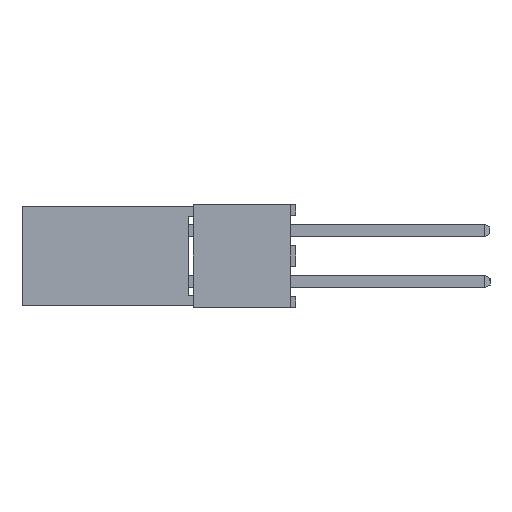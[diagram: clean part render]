
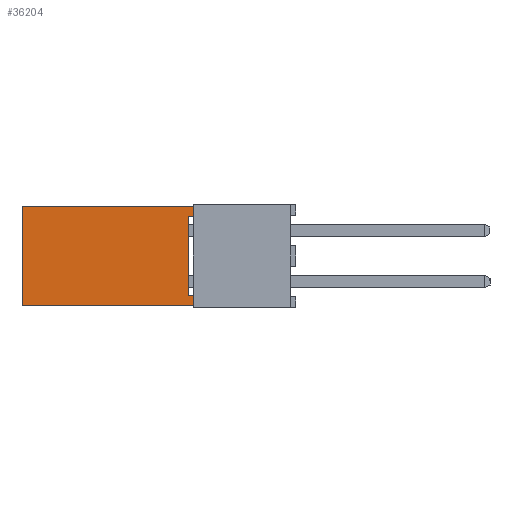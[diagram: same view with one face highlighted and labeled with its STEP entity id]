
A CAD part, left-side view. The second image highlights one B-rep face of the part: STEP entity #36204.
In plain terms, the highlighted planar face has unit normal (-1, 0, 0).
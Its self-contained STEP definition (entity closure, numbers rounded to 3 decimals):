
#327 = LINE ( 'NONE', #23468, #23651 ) ;
#1150 = DIRECTION ( 'NONE',  ( 0., 0., -1. ) ) ;
#2146 = VERTEX_POINT ( 'NONE', #10787 ) ;
#2588 = AXIS2_PLACEMENT_3D ( 'NONE', #33188, #25144, #48817 ) ;
#3364 = CARTESIAN_POINT ( 'NONE',  ( 0., 8.509, 1.968 ) ) ;
#5038 = LINE ( 'NONE', #8406, #31890 ) ;
#6583 = DIRECTION ( 'NONE',  ( 0., -1., 0. ) ) ;
#7843 = EDGE_CURVE ( 'NONE', #16274, #2146, #50042, .T. ) ;
#8255 = VERTEX_POINT ( 'NONE', #42119 ) ;
#8374 = ORIENTED_EDGE ( 'NONE', *, *, #45698, .T. ) ;
#8406 = CARTESIAN_POINT ( 'NONE',  ( 0., 8.509, -2.477 ) ) ;
#10700 = DIRECTION ( 'NONE',  ( 0., 0., 1. ) ) ;
#10787 = CARTESIAN_POINT ( 'NONE',  ( 0., 0., -1.968 ) ) ;
#13050 = CARTESIAN_POINT ( 'NONE',  ( 0., 8.509, 2.477 ) ) ;
#13873 = CARTESIAN_POINT ( 'NONE',  ( 0., 0., -2.477 ) ) ;
#14408 = CARTESIAN_POINT ( 'NONE',  ( 0., 8.509, -1.968 ) ) ;
#14506 = VERTEX_POINT ( 'NONE', #29910 ) ;
#14884 = CARTESIAN_POINT ( 'NONE',  ( 0., 0.254, -1.968 ) ) ;
#15345 = CARTESIAN_POINT ( 'NONE',  ( 0., 8.509, -2.477 ) ) ;
#15372 = EDGE_LOOP ( 'NONE', ( #50080, #26486, #16972, #21558, #8374, #32689, #19047, #22286 ) ) ;
#16274 = VERTEX_POINT ( 'NONE', #38625 ) ;
#16355 = VECTOR ( 'NONE', #6583, 1000. ) ;
#16972 = ORIENTED_EDGE ( 'NONE', *, *, #50553, .F. ) ;
#17311 = PLANE ( 'NONE',  #2588 ) ;
#17977 = EDGE_CURVE ( 'NONE', #36951, #46824, #327, .T. ) ;
#19047 = ORIENTED_EDGE ( 'NONE', *, *, #35680, .F. ) ;
#19226 = DIRECTION ( 'NONE',  ( 0., 1., 0. ) ) ;
#21558 = ORIENTED_EDGE ( 'NONE', *, *, #31054, .T. ) ;
#22286 = ORIENTED_EDGE ( 'NONE', *, *, #49242, .F. ) ;
#23468 = CARTESIAN_POINT ( 'NONE',  ( 0., 8.509, 2.477 ) ) ;
#23651 = VECTOR ( 'NONE', #39346, 1000. ) ;
#25144 = DIRECTION ( 'NONE',  ( 1., 0., 0. ) ) ;
#26486 = ORIENTED_EDGE ( 'NONE', *, *, #17977, .F. ) ;
#27526 = VECTOR ( 'NONE', #1150, 1000. ) ;
#27663 = VERTEX_POINT ( 'NONE', #15345 ) ;
#27958 = VERTEX_POINT ( 'NONE', #43109 ) ;
#28467 = CARTESIAN_POINT ( 'NONE',  ( 0., 8.509, 0. ) ) ;
#28686 = EDGE_CURVE ( 'NONE', #46824, #14506, #36783, .T. ) ;
#29910 = CARTESIAN_POINT ( 'NONE',  ( 0., 0., 1.968 ) ) ;
#30500 = LINE ( 'NONE', #14884, #46573 ) ;
#31054 = EDGE_CURVE ( 'NONE', #27663, #8255, #5038, .T. ) ;
#31355 = VECTOR ( 'NONE', #19226, 1000. ) ;
#31890 = VECTOR ( 'NONE', #36779, 1000. ) ;
#32689 = ORIENTED_EDGE ( 'NONE', *, *, #7843, .F. ) ;
#32943 = FACE_OUTER_BOUND ( 'NONE', #15372, .T. ) ;
#33188 = CARTESIAN_POINT ( 'NONE',  ( 0., 8.509, -2.477 ) ) ;
#35680 = EDGE_CURVE ( 'NONE', #27958, #16274, #30500, .T. ) ;
#36204 = ADVANCED_FACE ( 'NONE', ( #32943 ), #17311, .F. ) ;
#36779 = DIRECTION ( 'NONE',  ( 0., -1., 0. ) ) ;
#36783 = LINE ( 'NONE', #13873, #27526 ) ;
#36951 = VERTEX_POINT ( 'NONE', #13050 ) ;
#37041 = LINE ( 'NONE', #28467, #45548 ) ;
#38625 = CARTESIAN_POINT ( 'NONE',  ( 0., 0.254, -1.968 ) ) ;
#39346 = DIRECTION ( 'NONE',  ( 0., -1., 0. ) ) ;
#41208 = DIRECTION ( 'NONE',  ( 0., 0., 1. ) ) ;
#42119 = CARTESIAN_POINT ( 'NONE',  ( 0., 0., -2.477 ) ) ;
#43109 = CARTESIAN_POINT ( 'NONE',  ( 0., 0.254, 1.968 ) ) ;
#45548 = VECTOR ( 'NONE', #41208, 1000. ) ;
#45585 = CARTESIAN_POINT ( 'NONE',  ( 0., 0., 0. ) ) ;
#45698 = EDGE_CURVE ( 'NONE', #8255, #2146, #49992, .T. ) ;
#46573 = VECTOR ( 'NONE', #48876, 1000. ) ;
#46824 = VERTEX_POINT ( 'NONE', #49050 ) ;
#48689 = VECTOR ( 'NONE', #10700, 1000. ) ;
#48817 = DIRECTION ( 'NONE',  ( 0., 0., -1. ) ) ;
#48876 = DIRECTION ( 'NONE',  ( 0., 0., -1. ) ) ;
#49050 = CARTESIAN_POINT ( 'NONE',  ( 0., 0., 2.477 ) ) ;
#49242 = EDGE_CURVE ( 'NONE', #14506, #27958, #50994, .T. ) ;
#49992 = LINE ( 'NONE', #45585, #48689 ) ;
#50042 = LINE ( 'NONE', #14408, #16355 ) ;
#50080 = ORIENTED_EDGE ( 'NONE', *, *, #28686, .F. ) ;
#50553 = EDGE_CURVE ( 'NONE', #27663, #36951, #37041, .T. ) ;
#50994 = LINE ( 'NONE', #3364, #31355 ) ;
